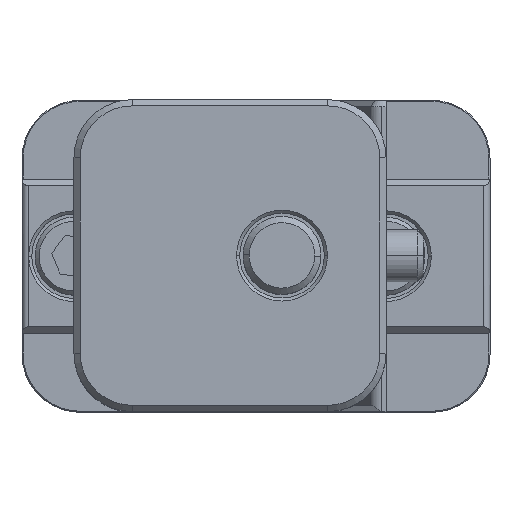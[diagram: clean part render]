
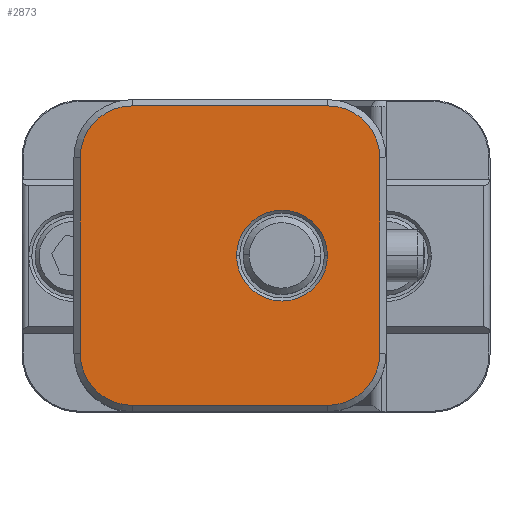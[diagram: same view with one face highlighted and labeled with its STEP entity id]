
A CAD part, top view. The second image highlights one B-rep face of the part: STEP entity #2873.
In plain terms, the highlighted planar face has unit normal (0, 0, 1).
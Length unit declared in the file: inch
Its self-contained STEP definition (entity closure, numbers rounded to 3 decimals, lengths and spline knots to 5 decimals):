
#2724 = VERTEX_POINT ( 'NONE', #11138 ) ;
#2727 = EDGE_CURVE ( 'NONE', #2732, #2724, #10424, .T. ) ;
#2732 = VERTEX_POINT ( 'NONE', #11182 ) ;
#2761 = EDGE_LOOP ( 'NONE', ( #2874, #2875 ) ) ;
#2796 = ORIENTED_EDGE ( 'NONE', *, *, #2798, .T. ) ;
#2798 = EDGE_CURVE ( 'NONE', #2799, #2800, #11284, .T. ) ;
#2799 = VERTEX_POINT ( 'NONE', #11280 ) ;
#2800 = VERTEX_POINT ( 'NONE', #11279 ) ;
#2802 = ORIENTED_EDGE ( 'NONE', *, *, #2803, .T. ) ;
#2803 = EDGE_CURVE ( 'NONE', #2800, #2804, #11273, .T. ) ;
#2804 = VERTEX_POINT ( 'NONE', #11268 ) ;
#2805 = ORIENTED_EDGE ( 'NONE', *, *, #2806, .T. ) ;
#2806 = EDGE_CURVE ( 'NONE', #2804, #2807, #11267, .T. ) ;
#2807 = VERTEX_POINT ( 'NONE', #11263 ) ;
#2808 = ORIENTED_EDGE ( 'NONE', *, *, #2809, .T. ) ;
#2809 = EDGE_CURVE ( 'NONE', #2807, #2810, #11262, .T. ) ;
#2810 = VERTEX_POINT ( 'NONE', #11257 ) ;
#2811 = ORIENTED_EDGE ( 'NONE', *, *, #2812, .T. ) ;
#2812 = EDGE_CURVE ( 'NONE', #2810, #2813, #11256, .T. ) ;
#2813 = VERTEX_POINT ( 'NONE', #11314 ) ;
#2814 = ORIENTED_EDGE ( 'NONE', *, *, #2815, .T. ) ;
#2815 = EDGE_CURVE ( 'NONE', #2813, #2816, #11313, .T. ) ;
#2816 = VERTEX_POINT ( 'NONE', #11308 ) ;
#2817 = ORIENTED_EDGE ( 'NONE', *, *, #2818, .T. ) ;
#2818 = EDGE_CURVE ( 'NONE', #2816, #2819, #11307, .T. ) ;
#2819 = VERTEX_POINT ( 'NONE', #11303 ) ;
#2820 = ORIENTED_EDGE ( 'NONE', *, *, #2821, .T. ) ;
#2821 = EDGE_CURVE ( 'NONE', #2819, #2799, #11302, .T. ) ;
#2873 = ADVANCED_FACE ( 'NONE', ( #11387, #11386 ), #11385, .T. ) ;
#2874 = ORIENTED_EDGE ( 'NONE', *, *, #2727, .T. ) ;
#2875 = ORIENTED_EDGE ( 'NONE', *, *, #2876, .T. ) ;
#2876 = EDGE_CURVE ( 'NONE', #2724, #2732, #10617, .T. ) ;
#2877 = EDGE_LOOP ( 'NONE', ( #2796, #2802, #2805, #2808, #2811, #2814, #2817, #2820 ) ) ;
#10419 = CARTESIAN_POINT ( 'NONE',  ( -0.5, 0., 0. ) ) ;
#10424 = CIRCLE ( 'NONE', #10426, 0.2185 ) ;
#10426 = AXIS2_PLACEMENT_3D ( 'NONE', #10419, #10624, #10618 ) ;
#10617 = CIRCLE ( 'NONE', #10874, 0.2185 ) ;
#10618 = DIRECTION ( 'NONE',  ( 1., 0., 0. ) ) ;
#10624 = DIRECTION ( 'NONE',  ( 0., 0., -1. ) ) ;
#10873 = CARTESIAN_POINT ( 'NONE',  ( -0.5, 0., 0. ) ) ;
#10874 = AXIS2_PLACEMENT_3D ( 'NONE', #10873, #10880, #11129 ) ;
#10880 = DIRECTION ( 'NONE',  ( 0., 0., -1. ) ) ;
#11129 = DIRECTION ( 'NONE',  ( 1., 0., 0. ) ) ;
#11138 = CARTESIAN_POINT ( 'NONE',  ( -0.7185, 0., 0. ) ) ;
#11182 = CARTESIAN_POINT ( 'NONE',  ( -0.2815, 0., 0. ) ) ;
#11256 = LINE ( 'NONE', #11317, #11316 ) ;
#11257 = CARTESIAN_POINT ( 'NONE',  ( -0.03, -0.47, 0. ) ) ;
#11258 = DIRECTION ( 'NONE',  ( 1., 0., 0. ) ) ;
#11259 = DIRECTION ( 'NONE',  ( 0., 0., 1. ) ) ;
#11260 = CARTESIAN_POINT ( 'NONE',  ( -0.28, -0.47, 0. ) ) ;
#11261 = AXIS2_PLACEMENT_3D ( 'NONE', #11260, #11259, #11258 ) ;
#11262 = CIRCLE ( 'NONE', #11261, 0.25 ) ;
#11263 = CARTESIAN_POINT ( 'NONE',  ( -0.28, -0.72, 0. ) ) ;
#11264 = DIRECTION ( 'NONE',  ( 1., 0., 0. ) ) ;
#11265 = VECTOR ( 'NONE', #11264, 39.37008 ) ;
#11266 = CARTESIAN_POINT ( 'NONE',  ( -1.5, -0.72, 0. ) ) ;
#11267 = LINE ( 'NONE', #11266, #11265 ) ;
#11268 = CARTESIAN_POINT ( 'NONE',  ( -1.22, -0.72, 0. ) ) ;
#11269 = DIRECTION ( 'NONE',  ( 1., 0., 0. ) ) ;
#11270 = DIRECTION ( 'NONE',  ( 0., 0., 1. ) ) ;
#11271 = CARTESIAN_POINT ( 'NONE',  ( -1.22, -0.47, 0. ) ) ;
#11272 = AXIS2_PLACEMENT_3D ( 'NONE', #11271, #11270, #11269 ) ;
#11273 = CIRCLE ( 'NONE', #11272, 0.25 ) ;
#11279 = CARTESIAN_POINT ( 'NONE',  ( -1.47, -0.47, 0. ) ) ;
#11280 = CARTESIAN_POINT ( 'NONE',  ( -1.47, 0.47, 0. ) ) ;
#11281 = DIRECTION ( 'NONE',  ( 0., -1., 0. ) ) ;
#11282 = VECTOR ( 'NONE', #11281, 39.37008 ) ;
#11283 = CARTESIAN_POINT ( 'NONE',  ( -1.47, -0.75, 0. ) ) ;
#11284 = LINE ( 'NONE', #11283, #11282 ) ;
#11298 = DIRECTION ( 'NONE',  ( 1., 0., 0. ) ) ;
#11299 = DIRECTION ( 'NONE',  ( 0., 0., 1. ) ) ;
#11300 = CARTESIAN_POINT ( 'NONE',  ( -1.22, 0.47, 0. ) ) ;
#11301 = AXIS2_PLACEMENT_3D ( 'NONE', #11300, #11299, #11298 ) ;
#11302 = CIRCLE ( 'NONE', #11301, 0.25 ) ;
#11303 = CARTESIAN_POINT ( 'NONE',  ( -1.22, 0.72, 0. ) ) ;
#11304 = DIRECTION ( 'NONE',  ( -1., 0., 0. ) ) ;
#11305 = VECTOR ( 'NONE', #11304, 39.37008 ) ;
#11306 = CARTESIAN_POINT ( 'NONE',  ( -1.5, 0.72, 0. ) ) ;
#11307 = LINE ( 'NONE', #11306, #11305 ) ;
#11308 = CARTESIAN_POINT ( 'NONE',  ( -0.28, 0.72, 0. ) ) ;
#11309 = DIRECTION ( 'NONE',  ( 1., 0., 0. ) ) ;
#11310 = DIRECTION ( 'NONE',  ( 0., 0., 1. ) ) ;
#11311 = CARTESIAN_POINT ( 'NONE',  ( -0.28, 0.47, 0. ) ) ;
#11312 = AXIS2_PLACEMENT_3D ( 'NONE', #11311, #11310, #11309 ) ;
#11313 = CIRCLE ( 'NONE', #11312, 0.25 ) ;
#11314 = CARTESIAN_POINT ( 'NONE',  ( -0.03, 0.47, 0. ) ) ;
#11315 = DIRECTION ( 'NONE',  ( 0., 1., 0. ) ) ;
#11316 = VECTOR ( 'NONE', #11315, 39.37008 ) ;
#11317 = CARTESIAN_POINT ( 'NONE',  ( -0.03, 0.47, 0. ) ) ;
#11380 = DIRECTION ( 'NONE',  ( 1., 0., 0. ) ) ;
#11381 = DIRECTION ( 'NONE',  ( 0., 0., 1. ) ) ;
#11382 = AXIS2_PLACEMENT_3D ( 'NONE', #11384, #11381, #11380 ) ;
#11384 = CARTESIAN_POINT ( 'NONE',  ( -1.5, -0.75, 0. ) ) ;
#11385 = PLANE ( 'NONE',  #11382 ) ;
#11386 = FACE_OUTER_BOUND ( 'NONE', #2877, .T. ) ;
#11387 = FACE_BOUND ( 'NONE', #2761, .T. ) ;
